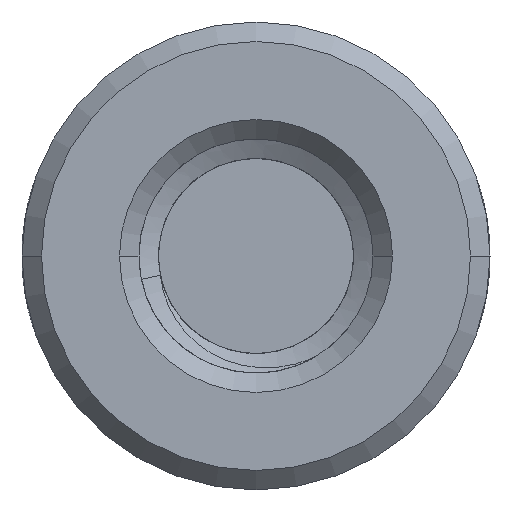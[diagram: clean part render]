
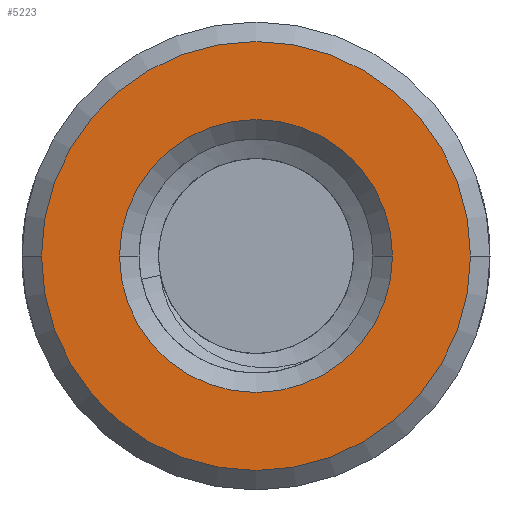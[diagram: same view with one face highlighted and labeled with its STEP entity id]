
A CAD part, front view. The second image highlights one B-rep face of the part: STEP entity #5223.
In plain terms, the highlighted planar face has unit normal (0, -1, 0).
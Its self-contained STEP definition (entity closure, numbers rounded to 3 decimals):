
#1=CARTESIAN_POINT('',(0.,0.,0.));
#2=DIRECTION('',(0.,1.,0.));
#3=DIRECTION('',(-1.,0.,0.));
#4=AXIS2_PLACEMENT_3D('',#1,#2,#3);
#6=CARTESIAN_POINT('',(0.,0.,0.));
#7=DIRECTION('',(0.,1.,0.));
#8=DIRECTION('',(1.,0.,0.));
#9=AXIS2_PLACEMENT_3D('',#6,#7,#8);
#11=CARTESIAN_POINT('',(0.,0.,0.));
#12=DIRECTION('',(0.,-1.,0.));
#13=DIRECTION('',(-1.,0.,0.));
#14=AXIS2_PLACEMENT_3D('',#11,#12,#13);
#16=CARTESIAN_POINT('',(0.,0.,0.));
#17=DIRECTION('',(0.,-1.,0.));
#18=DIRECTION('',(1.,0.,0.));
#19=AXIS2_PLACEMENT_3D('',#16,#17,#18);
#5190=CARTESIAN_POINT('',(-3.5,0.,0.));
#5191=CARTESIAN_POINT('',(3.5,0.,0.));
#5192=VERTEX_POINT('',#5190);
#5193=VERTEX_POINT('',#5191);
#5198=CARTESIAN_POINT('',(-5.5,0.,0.));
#5199=CARTESIAN_POINT('',(5.5,0.,0.));
#5200=VERTEX_POINT('',#5198);
#5201=VERTEX_POINT('',#5199);
#5206=CARTESIAN_POINT('',(0.,0.,0.));
#5207=DIRECTION('',(0.,1.,0.));
#5208=DIRECTION('',(1.,0.,0.));
#5209=AXIS2_PLACEMENT_3D('',#5206,#5207,#5208);
#5210=PLANE('',#5209);
#5212=ORIENTED_EDGE('',*,*,#5211,.F.);
#5214=ORIENTED_EDGE('',*,*,#5213,.F.);
#5215=EDGE_LOOP('',(#5212,#5214));
#5216=FACE_OUTER_BOUND('',#5215,.F.);
#5218=ORIENTED_EDGE('',*,*,#5217,.F.);
#5220=ORIENTED_EDGE('',*,*,#5219,.F.);
#5221=EDGE_LOOP('',(#5218,#5220));
#5222=FACE_BOUND('',#5221,.F.);
#5223=ADVANCED_FACE('',(#5216,#5222),#5210,.F.);
#5=CIRCLE('',#4,3.5);
#10=CIRCLE('',#9,3.5);
#15=CIRCLE('',#14,5.5);
#20=CIRCLE('',#19,5.5);
#5211=EDGE_CURVE('',#5200,#5201,#15,.T.);
#5213=EDGE_CURVE('',#5201,#5200,#20,.T.);
#5217=EDGE_CURVE('',#5192,#5193,#5,.T.);
#5219=EDGE_CURVE('',#5193,#5192,#10,.T.);
